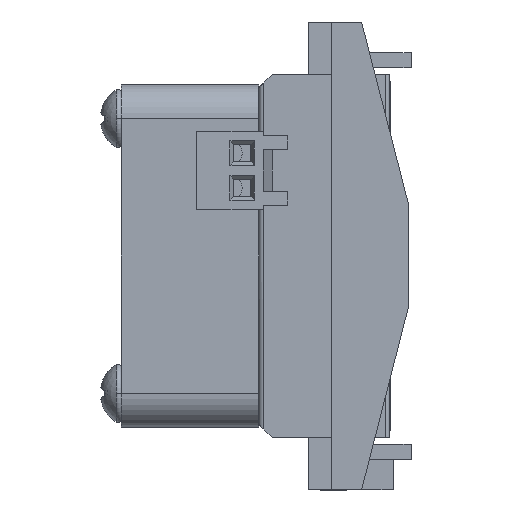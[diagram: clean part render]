
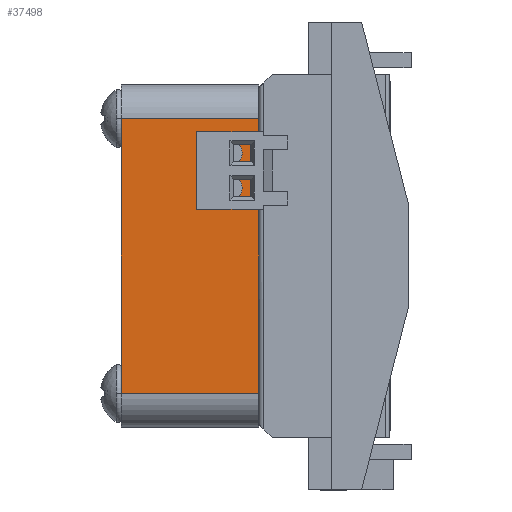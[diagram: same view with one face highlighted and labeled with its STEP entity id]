
A CAD part, left-side view. The second image highlights one B-rep face of the part: STEP entity #37498.
In plain terms, the highlighted planar face has unit normal (-1, 0, 0).
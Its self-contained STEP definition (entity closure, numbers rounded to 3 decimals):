
#15 = CIRCLE ( 'NONE', #48133, 0.762 ) ;
#1947 = ORIENTED_EDGE ( 'NONE', *, *, #5748, .T. ) ;
#2485 = CIRCLE ( 'NONE', #28733, 0.762 ) ;
#3763 = DIRECTION ( 'NONE',  ( 0., 0., -1. ) ) ;
#4151 = DIRECTION ( 'NONE',  ( 0., 0., 1. ) ) ;
#4979 = FACE_OUTER_BOUND ( 'NONE', #40688, .T. ) ;
#5748 = EDGE_CURVE ( 'NONE', #46387, #7174, #64836, .T. ) ;
#7174 = VERTEX_POINT ( 'NONE', #25931 ) ;
#8091 = EDGE_LOOP ( 'NONE', ( #24713, #18348 ) ) ;
#9243 = DIRECTION ( 'NONE',  ( -1., 0., 0. ) ) ;
#9565 = CARTESIAN_POINT ( 'NONE',  ( -12.5, 11.5, 4.96 ) ) ;
#14780 = CARTESIAN_POINT ( 'NONE',  ( -12.5, 11.5, 6.738 ) ) ;
#15880 = EDGE_CURVE ( 'NONE', #60287, #61921, #45590, .T. ) ;
#16307 = CARTESIAN_POINT ( 'NONE',  ( -12.5, 11.5, 8.262 ) ) ;
#16446 = VERTEX_POINT ( 'NONE', #35224 ) ;
#18127 = CARTESIAN_POINT ( 'NONE',  ( -12.5, 19.5, 10. ) ) ;
#18348 = ORIENTED_EDGE ( 'NONE', *, *, #15880, .F. ) ;
#18617 = VECTOR ( 'NONE', #19028, 1000. ) ;
#19028 = DIRECTION ( 'NONE',  ( 0., -1., 0. ) ) ;
#20428 = AXIS2_PLACEMENT_3D ( 'NONE', #47422, #32017, #42294 ) ;
#23512 = CARTESIAN_POINT ( 'NONE',  ( -12.5, 19.5, -10. ) ) ;
#24713 = ORIENTED_EDGE ( 'NONE', *, *, #55649, .F. ) ;
#25178 = FACE_BOUND ( 'NONE', #8091, .T. ) ;
#25826 = CARTESIAN_POINT ( 'NONE',  ( -12.5, 11.5, 7.5 ) ) ;
#25931 = CARTESIAN_POINT ( 'NONE',  ( -12.5, 9.5, 10. ) ) ;
#26158 = DIRECTION ( 'NONE',  ( -1., 0., 0. ) ) ;
#27619 = VECTOR ( 'NONE', #4151, 1000. ) ;
#28212 = EDGE_CURVE ( 'NONE', #30566, #60531, #15, .T. ) ;
#28733 = AXIS2_PLACEMENT_3D ( 'NONE', #28881, #49374, #53833 ) ;
#28881 = CARTESIAN_POINT ( 'NONE',  ( -12.5, 11.5, 7.5 ) ) ;
#30566 = VERTEX_POINT ( 'NONE', #14780 ) ;
#30725 = ORIENTED_EDGE ( 'NONE', *, *, #67398, .F. ) ;
#31059 = EDGE_CURVE ( 'NONE', #60531, #30566, #2485, .T. ) ;
#32017 = DIRECTION ( 'NONE',  ( -1., 0., 0. ) ) ;
#33109 = CARTESIAN_POINT ( 'NONE',  ( -12.5, 11.5, 4.198 ) ) ;
#33765 = AXIS2_PLACEMENT_3D ( 'NONE', #9565, #9243, #3763 ) ;
#34032 = DIRECTION ( 'NONE',  ( 0., 0., 1. ) ) ;
#35224 = CARTESIAN_POINT ( 'NONE',  ( -12.5, 19.5, 10. ) ) ;
#35567 = AXIS2_PLACEMENT_3D ( 'NONE', #40870, #51492, #62093 ) ;
#37498 = ADVANCED_FACE ( 'NONE', ( #4979, #51161, #25178 ), #46015, .F. ) ;
#38140 = CIRCLE ( 'NONE', #33765, 0.762 ) ;
#39142 = EDGE_CURVE ( 'NONE', #52570, #46387, #50830, .T. ) ;
#40688 = EDGE_LOOP ( 'NONE', ( #1947, #30725, #41208, #56004 ) ) ;
#40870 = CARTESIAN_POINT ( 'NONE',  ( -12.5, 19.5, -10. ) ) ;
#41141 = EDGE_CURVE ( 'NONE', #52570, #16446, #41376, .T. ) ;
#41208 = ORIENTED_EDGE ( 'NONE', *, *, #41141, .F. ) ;
#41376 = LINE ( 'NONE', #66067, #27619 ) ;
#42294 = DIRECTION ( 'NONE',  ( 0., 0., -1. ) ) ;
#44615 = CARTESIAN_POINT ( 'NONE',  ( -12.5, 9.5, -10. ) ) ;
#45590 = CIRCLE ( 'NONE', #20428, 0.762 ) ;
#46015 = PLANE ( 'NONE',  #35567 ) ;
#46387 = VERTEX_POINT ( 'NONE', #66513 ) ;
#47332 = DIRECTION ( 'NONE',  ( 0., 0., -1. ) ) ;
#47422 = CARTESIAN_POINT ( 'NONE',  ( -12.5, 11.5, 4.96 ) ) ;
#48133 = AXIS2_PLACEMENT_3D ( 'NONE', #25826, #26158, #47332 ) ;
#49374 = DIRECTION ( 'NONE',  ( -1., 0., 0. ) ) ;
#50383 = VECTOR ( 'NONE', #34032, 1000. ) ;
#50830 = LINE ( 'NONE', #23512, #18617 ) ;
#51161 = FACE_BOUND ( 'NONE', #61881, .T. ) ;
#51492 = DIRECTION ( 'NONE',  ( 1., 0., 0. ) ) ;
#52570 = VERTEX_POINT ( 'NONE', #58635 ) ;
#53833 = DIRECTION ( 'NONE',  ( 0., 0., -1. ) ) ;
#54706 = LINE ( 'NONE', #18127, #63242 ) ;
#55378 = DIRECTION ( 'NONE',  ( 0., -1., 0. ) ) ;
#55649 = EDGE_CURVE ( 'NONE', #61921, #60287, #38140, .T. ) ;
#56004 = ORIENTED_EDGE ( 'NONE', *, *, #39142, .T. ) ;
#58203 = ORIENTED_EDGE ( 'NONE', *, *, #28212, .F. ) ;
#58635 = CARTESIAN_POINT ( 'NONE',  ( -12.5, 19.5, -10. ) ) ;
#58942 = CARTESIAN_POINT ( 'NONE',  ( -12.5, 11.5, 5.722 ) ) ;
#60287 = VERTEX_POINT ( 'NONE', #58942 ) ;
#60531 = VERTEX_POINT ( 'NONE', #16307 ) ;
#61881 = EDGE_LOOP ( 'NONE', ( #58203, #64565 ) ) ;
#61921 = VERTEX_POINT ( 'NONE', #33109 ) ;
#62093 = DIRECTION ( 'NONE',  ( 0., 0., -1. ) ) ;
#63242 = VECTOR ( 'NONE', #55378, 1000. ) ;
#64565 = ORIENTED_EDGE ( 'NONE', *, *, #31059, .F. ) ;
#64836 = LINE ( 'NONE', #44615, #50383 ) ;
#66067 = CARTESIAN_POINT ( 'NONE',  ( -12.5, 19.5, -10. ) ) ;
#66513 = CARTESIAN_POINT ( 'NONE',  ( -12.5, 9.5, -10. ) ) ;
#67398 = EDGE_CURVE ( 'NONE', #16446, #7174, #54706, .T. ) ;
